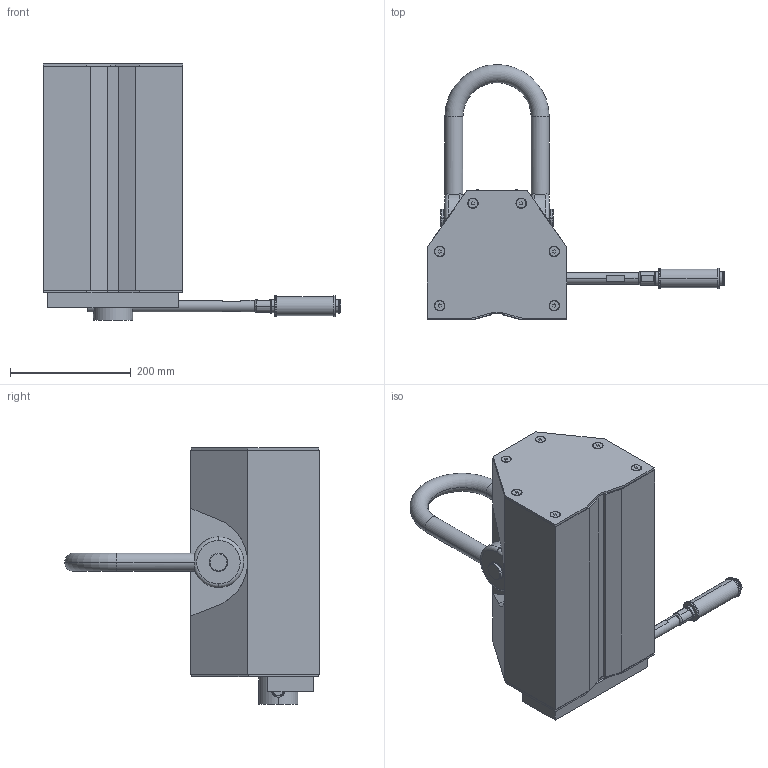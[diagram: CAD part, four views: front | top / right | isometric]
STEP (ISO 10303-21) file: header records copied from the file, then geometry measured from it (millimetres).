
FILE_DESCRIPTION (( 'STEP AP203' ), '1' );
FILE_NAME ('PNL5000.STEP', '2018-08-02T20:00:46', ( '' ), ( '' ), 'SwSTEP 2.0', 'SolidWorks 2015', '' );
FILE_SCHEMA (( 'CONFIG_CONTROL_DESIGN' ));
Length unit declared in the file: inch
Products named in the file (1): PNL5000
Bounding box: 493.88 x 422.3 x 425.25 mm (x, y, z)
Volume: 13312923.7 mm3; surface area: 1092597.6 mm2
Topology: 81 solids, 81 shells, 2685 faces, 6032 edges, 3560 vertices
Faces by surface type: cone 1288, plane 778, bspline 260, cylinder 231, sphere 96, torus 32
Entity records: 88339 total; most frequent: CARTESIAN_POINT 30324, DIRECTION 12144, ORIENTED_EDGE 11664, EDGE_CURVE 5832, AXIS2_PLACEMENT_3D 4438, VERTEX_POINT 3440, VECTOR 3268, LINE 3268
